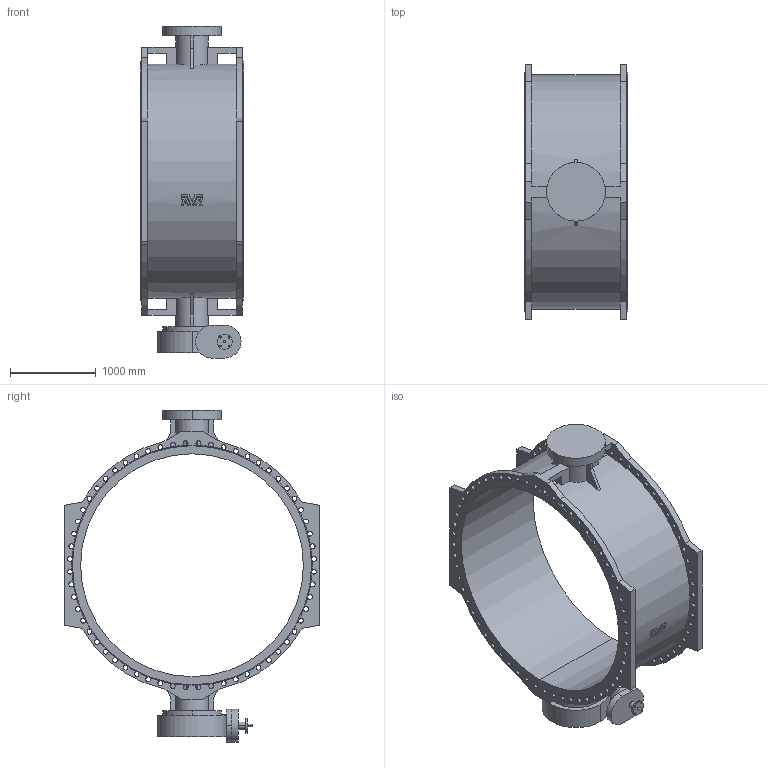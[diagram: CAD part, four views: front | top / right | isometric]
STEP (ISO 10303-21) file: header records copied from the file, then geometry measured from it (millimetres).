
FILE_DESCRIPTION (( 'STEP AP203' ), '1' );
FILE_NAME ('O_756_102_DN2600_0XX020XX_REV02.step', '2021-08-09T07:04:44', ( '' ), ( '' ), 'SwSTEP 2.0', 'SolidWorks 2019', '' );
FILE_SCHEMA (( 'CONFIG_CONTROL_DESIGN' ));
Length unit declared in the file: millimetre
Products named in the file (1): O_756_102_DN2600_0XX020XX_REV02
Bounding box: 1190 x 2980 x 3873 mm (x, y, z)
Volume: 1152750434.8 mm3; surface area: 31935844.5 mm2
Topology: 1 solids, 1 shells, 406 faces, 1545 edges, 1029 vertices
Faces by surface type: cylinder 287, plane 96, bspline 17, cone 6
Entity records: 21262 total; most frequent: CARTESIAN_POINT 7408, ORIENTED_EDGE 3090, DIRECTION 2919, EDGE_CURVE 1545, AXIS2_PLACEMENT_3D 1190, VERTEX_POINT 1029, CIRCLE 800, EDGE_LOOP 552
